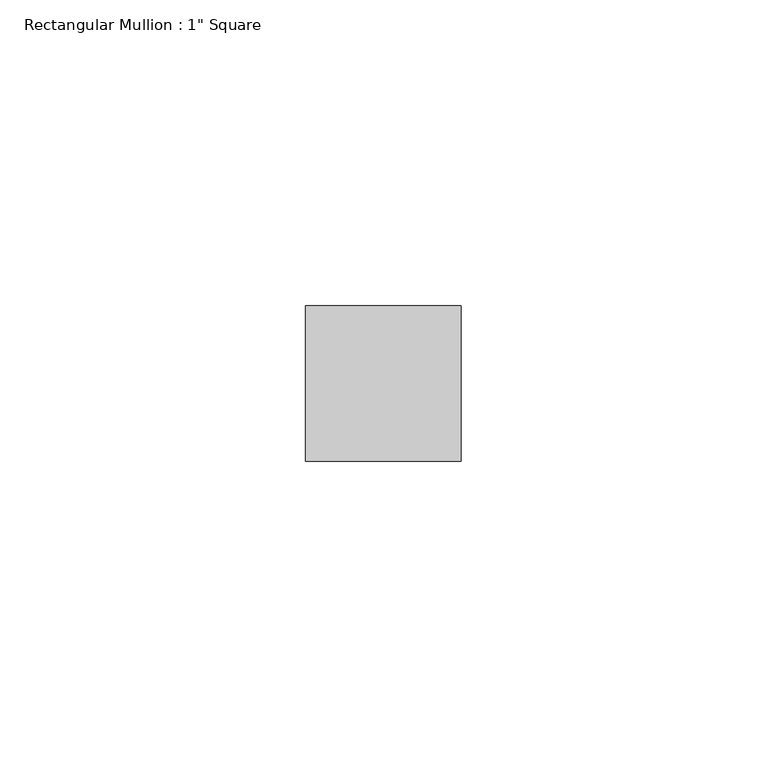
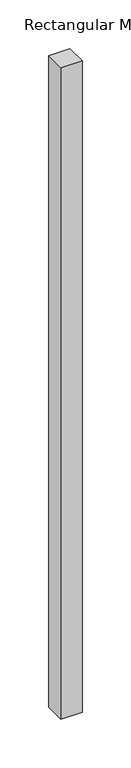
"""IFC4 building model written with IfcOpenShell, lengths in millimetres: member geometry."""

from ifc_helpers import new_model, si_unit, frame, origin, place, context, project, spatial, polyline, outline, extrude, source, transform, mapped, element, save


def member_16c772f1(model_context):
    return source(origin(), model_context, "Body", "SweptSolid", [
        extrude(outline(polyline([(12.7, 12.7), (12.7, -12.7), (-12.7, -12.7), (-12.7, 12.7), (12.7, 12.7)])), frame((0.0, 0.0, -819.4040646), z_axis=(0.0, 0.0, 1.0), x_axis=(1.0, 0.0, 0.0)), (0.0, 0.0, 1.0), 819.4040646),
    ])


if __name__ == "__main__":
    model = new_model("IFC4")
    model_context = context("Model", 3, world=origin())
    ifc_project = project(units=[si_unit("LENGTHUNIT", "METRE", prefix="MILLI")], contexts=[model_context])
    site = spatial("IfcSite", under=ifc_project)
    building = spatial("IfcBuilding", under=site)
    placement = place(None, origin())
    member_shape = member_16c772f1(model_context)
    element("IfcMember", 1, ObjectType="Rectangular Mullion : 1\" Square", at=placement, inside=building, context=model_context, shape_type="MappedRepresentation", body=[
        mapped(member_shape, transform((0.0, 0.0, 0.0), x_axis=(1.0, 0.0, 0.0), y_axis=(0.0, 1.0, 0.0), z_axis=(0.0, 0.0, 1.0))),
    ])
    save(model, "model.ifc")
